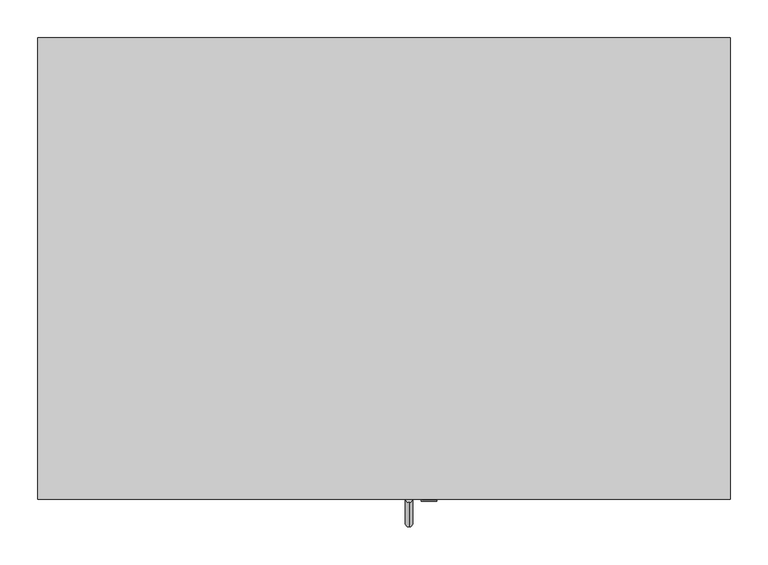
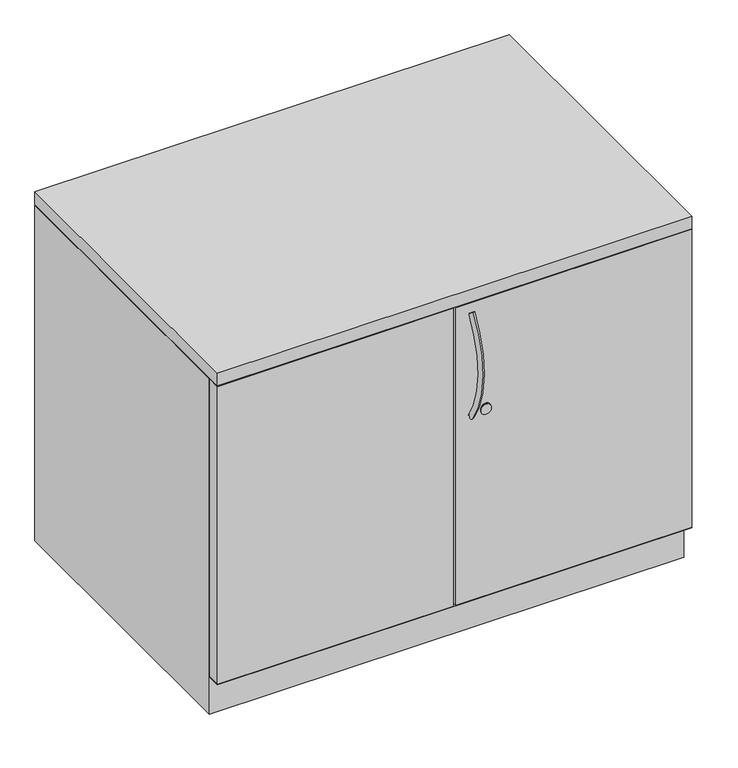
"""IFC4 building model written with IfcOpenShell, lengths in millimetres: furniture geometry, Steelcase - Universal Storage - Cabinet - Storage - 28H - Proud Steel : 23 1/8D x 36W."""

from ifc_helpers import new_model, si_unit, point, frame, frame_2d, origin, place, context, project, spatial, polyline, circle_curve, ellipse_curve, trimmed, segment, composite_curve, outline, extrude, faceted_brep, source, transform, mapped, element, save
from ifc_brep_helpers import plane_surface, revolved_surface, advanced_brep


def furniture_79ab873d(model_context):
    return source(origin(), model_context, "Body", "SolidModel", [
        extrude(outline(polyline([(914.4, 0.0), (914.4, -609.6), (0.0, -609.6), (0.0, 0.0), (914.4, 0.0)])), frame((0.0, 0.0, 685.7999516), z_axis=(0.0, 0.0, 1.0), x_axis=(1.0, 0.0, 0.0)), (0.0, 0.0, 1.0), 25.4),
        extrude(outline(polyline([(0.0, -609.6), (0.0, -584.2008418), (454.66, -584.2008418), (454.66, -609.6), (0.0, -609.6)])), frame((0.0, 0.0, 77.724), z_axis=(0.0, 0.0, 1.0), x_axis=(1.0, 0.0, 0.0)), (0.0, 0.0, 1.0), 606.552),
        extrude(outline(polyline([(914.4, -584.2008418), (914.4, -609.6), (459.74, -609.6), (459.74, -584.2008418), (914.4, -584.2008418)])), frame((0.0, 0.0, 77.724), z_axis=(0.0, 0.0, 1.0), x_axis=(1.0, 0.0, 0.0)), (0.0, 0.0, 1.0), 606.552),
        extrude(outline(composite_curve([segment(trimmed(circle_curve(frame_2d((458.724, 516.7418131)), 10.16), [point((458.724, 526.9018131))], [point((458.724, 506.5818131))], False, "CARTESIAN"), True, "CONTINUOUS"), segment(trimmed(circle_curve(frame_2d((458.724, 516.7418131)), 10.16), [point((458.724, 506.5818131))], [point((458.724, 526.9018131))], False, "CARTESIAN"), True, "CONTINUOUS")], self_intersect=False)), frame((0.0, -612.013031, 0.0), z_axis=(0.0, 1.0, 0.0), x_axis=(0.0, 0.0, 1.0)), (0.0, 0.0, 1.0), 2.413031),
        advanced_brep(
        [(490.2783765, -605.0224318, 660.7416018), (490.2783765, -613.6221633, 666.4120503), (490.2783765, -602.5951581, 453.0151915), (490.2783765, -611.0600418, 447.1453437)],
        [
            (0, 1, circle_curve(frame((490.2783765, -609.3222976, 663.5768261), z_axis=(0.0, 0.5504787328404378, 0.83484918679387), x_axis=(0.0, -0.83484918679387, 0.5504787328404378)), 5.1504701)),
            (1, 0, circle_curve(frame((490.2783765, -609.3222976, 663.5768261), z_axis=(0.0, 0.5504787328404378, 0.83484918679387), x_axis=(0.0, -0.83484918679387, 0.5504787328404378)), 5.1504701)),
            (2, 3, circle_curve(frame((490.2783765, -606.8276, 450.0802676), z_axis=(0.0, 0.5698361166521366, -0.8217583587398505), x_axis=(0.0, -0.8217583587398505, -0.5698361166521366)), 5.1504701)),
            (3, 2, circle_curve(frame((490.2783765, -606.8276, 450.0802676), z_axis=(0.0, 0.5698361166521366, -0.8217583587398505), x_axis=(0.0, -0.8217583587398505, -0.5698361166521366)), 5.1504701)),
            (3, 1, circle_curve(frame((490.2783765, -450.226461, 558.6729992), z_axis=(-1.0, 0.0, 0.0), x_axis=(0.0, -0.83484918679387, 0.5504787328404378)), 195.7188256)),
            (0, 2, circle_curve(frame((490.2783765, -450.226461, 558.6729992), z_axis=(1.0, 0.0, 0.0), x_axis=(0.0, -0.83484918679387, 0.5504787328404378)), 185.4178854)),
        ],
        [
            plane_surface(frame((490.2783765, -609.3222976, 663.5768261), z_axis=(0.0, 0.5504787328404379, 0.83484918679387), x_axis=(-1.0, 0.0, 0.0))),
            plane_surface(frame((490.2783765, -606.8276, 450.0802676), z_axis=(0.0, 0.5698361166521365, -0.8217583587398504), x_axis=(-1.0, 0.0, 0.0))),
            revolved_surface(trimmed(ellipse_curve(frame((490.2783765, -609.3222976, 663.5768261), z_axis=(0.0, 0.5504787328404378, 0.83484918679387), x_axis=(0.0, -0.83484918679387, 0.5504787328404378)), 5.1504701, 5.1504701), [point((490.2783765, -605.0224318, 660.7416018))], [point((490.2783765, -613.6221633, 666.4120503))], True, "CARTESIAN"), (490.2783765, -450.226461, 558.6729992), (1.0, 0.0, 0.0)),
            revolved_surface(trimmed(ellipse_curve(frame((490.2783765, -609.3222976, 663.5768261), z_axis=(0.0, 0.5504787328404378, 0.83484918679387), x_axis=(0.0, -0.83484918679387, 0.5504787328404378)), 5.1504701, 5.1504701), [point((490.2783765, -613.6221633, 666.4120503))], [point((490.2783765, -605.0224318, 660.7416018))], True, "CARTESIAN"), (490.2783765, -450.226461, 558.6729992), (1.0, 0.0, 0.0)),
        ],
        [
            (0, [[1, 2]]),
            (1, [[3, 4]]),
            (2, [[5, -1, 6, -4]]),
            (3, [[-6, -2, -5, -3]]),
        ],
    ),
        extrude(outline(composite_curve([segment(trimmed(circle_curve(frame_2d((460.3889832, 517.0109835)), 9.7167829), [point((460.3889832, 526.7277664))], [point((460.3889832, 507.2942006))], False, "CARTESIAN"), True, "CONTINUOUS"), segment(trimmed(circle_curve(frame_2d((460.3889832, 517.0109835)), 9.7167829), [point((460.3889832, 507.2942006))], [point((460.3889832, 526.7277664))], False, "CARTESIAN"), True, "CONTINUOUS")], self_intersect=False)), frame((0.0, -610.2695275, 0.0), z_axis=(0.0, 1.0, 0.0), x_axis=(0.0, 0.0, 1.0)), (0.0, 0.0, 1.0), 0.6695275),
        faceted_brep([(914.4, 0.0, 0.0), (914.4, -582.6768432, 0.0), (0.0, -582.6768432, 0.0), (0.0, 0.0, 0.0), (0.0, 0.0, 684.276), (914.4, 0.0, 684.276), (0.0, -582.6768432, 76.2), (0.0, -609.6, 76.2), (0.0, -609.6, 77.724), (0.0, -582.6768432, 77.724), (0.0, -582.6768432, 684.276), (914.4, -582.6768432, 76.2), (914.4, -582.6768432, 684.276), (914.4, -582.6768432, 77.724), (914.4, -609.4738418, 77.724), (914.4, -609.6, 76.2), (889.0000242, -25.4000008, 684.276), (889.0000242, -582.6768432, 684.276), (25.3999758, -582.6768432, 684.276), (25.3999758, -25.4000008, 684.276), (889.0000242, -25.4000008, 77.724), (889.0000242, -582.6768432, 77.724), (25.3999758, -582.6768432, 77.724), (25.3999758, -25.4000008, 77.724), (4.6981334, -584.2008418, 77.724), (889.0000242, -584.2008418, 77.724)], [[[0, 1, 2, 3]], [[0, 3, 4, 5]], [[4, 3, 2, 6, 7, 8, 9, 10]], [[2, 1, 11, 6]], [[1, 0, 5, 12, 13, 14, 15, 11]], [[16, 17, 12, 5, 4, 10, 18, 19]], [[17, 16, 20, 21]], [[12, 17, 21, 13]], [[18, 10, 9, 22]], [[19, 18, 22, 23]], [[16, 19, 23, 20]], [[8, 24, 25, 14, 13, 21, 20, 23, 22, 9]], [[24, 8, 7]], [[25, 24, 7, 15]], [[14, 25, 15]], [[15, 7, 6, 11]]]),
    ])


if __name__ == "__main__":
    model = new_model("IFC4")
    model_context = context("Model", 3, world=origin())
    ifc_project = project(units=[si_unit("LENGTHUNIT", "METRE", prefix="MILLI")], contexts=[model_context])
    site = spatial("IfcSite", under=ifc_project)
    building = spatial("IfcBuilding", under=site)
    placement = place(None, origin())
    furniture_shape = furniture_79ab873d(model_context)
    element("IfcFurniture", 1, ObjectType="Steelcase - Universal Storage - Cabinet - Storage - 28H - Proud Steel : 23 1/8D x 36W", at=placement, inside=building, context=model_context, shape_type="MappedRepresentation", body=[
        mapped(furniture_shape, transform((0.0, 0.0, 0.0), x_axis=(1.0, 0.0, 0.0), y_axis=(0.0, 1.0, 0.0), z_axis=(0.0, 0.0, 1.0))),
    ])
    save(model, "model.ifc")
